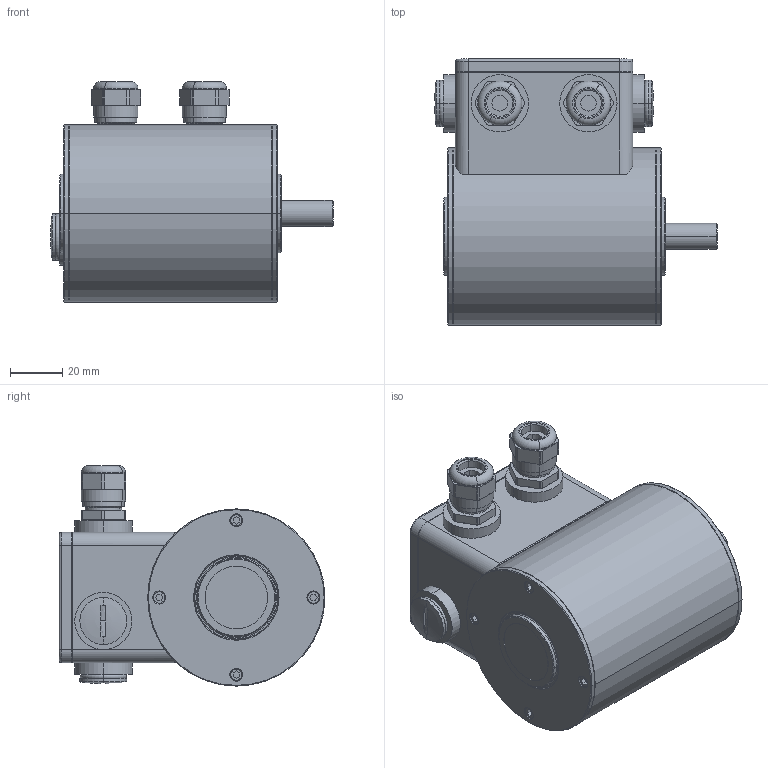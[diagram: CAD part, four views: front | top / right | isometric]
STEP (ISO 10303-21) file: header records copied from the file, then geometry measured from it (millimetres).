
FILE_DESCRIPTION (( 'STEP AP214' ), '1' );
FILE_NAME ('MQ637_K4M.STEP', '2019-02-15T11:27:31', ( 'admin' ), ( '' ), 'SwSTEP 2.0', 'SolidWorks 2017', '' );
FILE_SCHEMA (( 'AUTOMOTIVE_DESIGN' ));
Length unit declared in the file: millimetre
Products named in the file (5): 937201981; 937702020; K4M_BG_6; MQ637 vereinfacht; MQ637_K4M
Assembly tree (7 placements, depth 2):
  MQ637_K4M
    MQ637 vereinfacht
    K4M_BG_6
    937702020  x2
    937201981  x3
Bounding box: 108.51 x 102 x 84.5 mm (x, y, z)
Volume: 439210.9 mm3; surface area: 55707.4 mm2
Topology: 7 solids, 7 shells, 524 faces, 1161 edges, 713 vertices
Faces by surface type: plane 213, cylinder 181, cone 86, torus 40, sphere 4
Entity records: 12119 total; most frequent: DIRECTION 2079, CARTESIAN_POINT 2055, ORIENTED_EDGE 1754, EDGE_CURVE 877, AXIS2_PLACEMENT_3D 813, VERTEX_POINT 541, VECTOR 453, LINE 453
